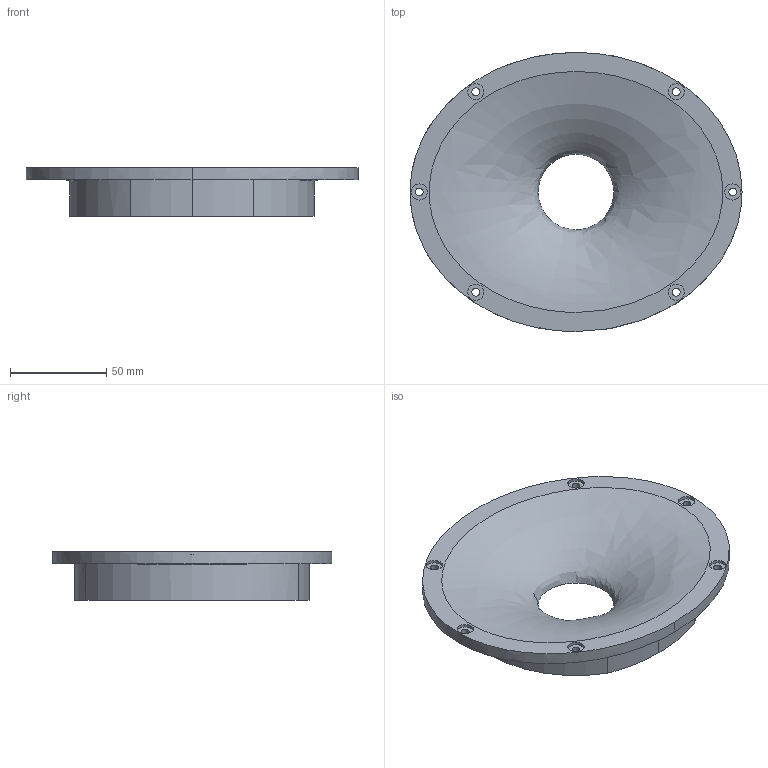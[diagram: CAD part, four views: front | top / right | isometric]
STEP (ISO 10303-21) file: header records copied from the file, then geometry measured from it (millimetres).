
FILE_DESCRIPTION(/* description */ (''),/* implementation_level */ '2;1');
FILE_NAME(/* name */ '6 x 1 82 vA nops.step',/* time_stamp */ '2023-05-22T11:51:51-06:00',/* author */ (''),/* organization */ (''),/* preprocessor_version */ 'ST-DEVELOPER v19.2',/* originating_system */ 'Autodesk Translation Framework v12.4.0.73',/* authorisation */ '');
FILE_SCHEMA (('AUTOMOTIVE_DESIGN { 1 0 10303 214 3 1 1 }'));
Length unit declared in the file: inch
Products named in the file (1): 6 x 1 82 vA OS SS
Bounding box: 172.21 x 144.78 x 25.27 mm (x, y, z)
Volume: 239646.5 mm3; surface area: 51528.7 mm2
Topology: 1 solids, 1 shells, 265 faces, 721 edges, 484 vertices
Faces by surface type: bspline 166, plane 77, cylinder 19, cone 3
Full cylindrical faces by diameter (mm): 3.302 x2, 4.064 x6, 8.382 x6
Entity records: 12554 total; most frequent: CARTESIAN_POINT 6956, ORIENTED_EDGE 1442, EDGE_CURVE 721, DIRECTION 611, VERTEX_POINT 484, B_SPLINE_CURVE_WITH_KNOTS 334, LINE 327, VECTOR 327
